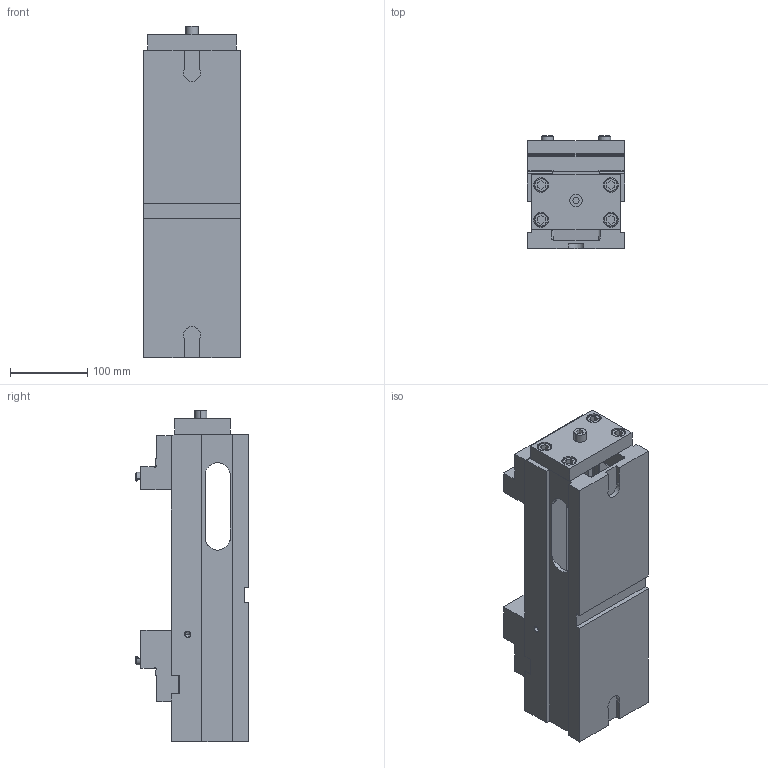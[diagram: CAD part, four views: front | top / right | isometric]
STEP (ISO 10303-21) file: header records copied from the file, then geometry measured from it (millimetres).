
FILE_DESCRIPTION((''),'2;1');
FILE_NAME('FG_VC_HIPR_SC125NP001_ASM','2026-03-14T12:35:19',('Admin'),(''),'CREO PARAMETRIC BY PTC INC, 2025010','CREO PARAMETRIC BY PTC INC, 2025010','');
FILE_SCHEMA(('CONFIG_CONTROL_DESIGN'));
Length unit declared in the file: millimetre
Products named in the file (11): LC125_MACH; PRT0001; SCHNITT-LINEAR_AUSTRAGEN43; MOVABLE_JAW_LC125; FIX_JAW_TITAN125; FASE_0_2X450; _8078202012200_-_ROTATION1_; 6921884036000_1_ASM; 6921884036000_ASM; DIN912-M12X25-12_9; FG_VC_HIPR_SC125NP001_ASM
Assembly tree (24 placements, depth 4):
  FG_VC_HIPR_SC125NP001_ASM
    LC125_MACH
    PRT0001
    SCHNITT-LINEAR_AUSTRAGEN43
    MOVABLE_JAW_LC125
    FIX_JAW_TITAN125
    6921884036000_ASM
      6921884036000_1_ASM
        FASE_0_2X450
        _8078202012200_-_ROTATION1_
    6921884036000_1_ASM  x2
      FASE_0_2X450
      _8078202012200_-_ROTATION1_
    FASE_0_2X450
    DIN912-M12X25-12_9  x12
Bounding box: 126 x 146.8 x 429 mm (x, y, z)
Volume: 3682067.4 mm3; surface area: 549962.6 mm2
Topology: 24 solids, 56 shells, 930 faces, 2390 edges, 1552 vertices
Faces by surface type: plane 414, cylinder 320, cone 136, torus 52, bspline 8
Entity records: 19272 total; most frequent: CARTESIAN_POINT 4334, DIRECTION 3155, ORIENTED_EDGE 2922, EDGE_CURVE 1519, AXIS2_PLACEMENT_3D 1152, VERTEX_POINT 1019, VECTOR 851, LINE 851
